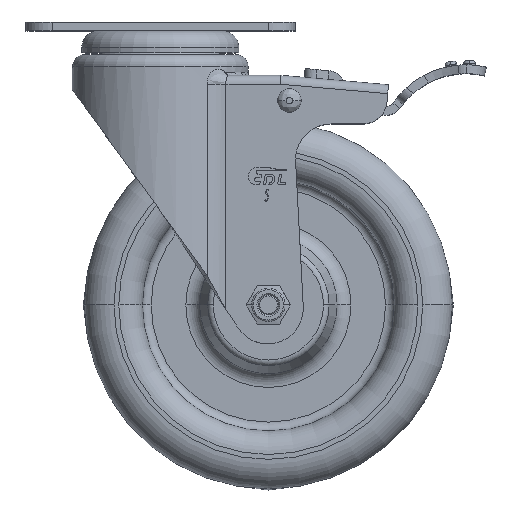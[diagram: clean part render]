
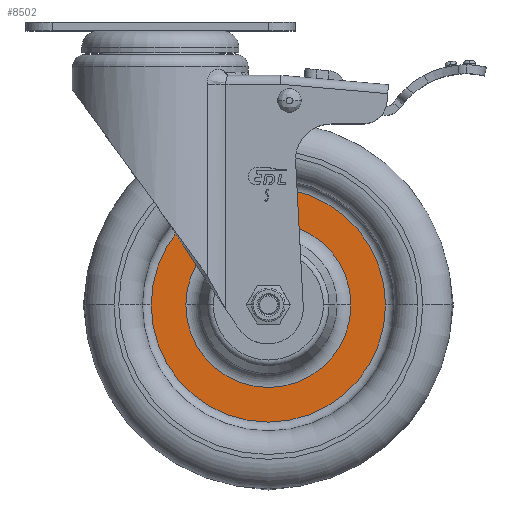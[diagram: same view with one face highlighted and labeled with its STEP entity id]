
A CAD part, top view. The second image highlights one B-rep face of the part: STEP entity #8502.
In plain terms, the highlighted planar face has unit normal (0, 0, 1) as drawn and (1, 0, 0) by its records, which use the part's own axes.
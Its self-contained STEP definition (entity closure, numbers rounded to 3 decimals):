
#7868=CARTESIAN_POINT('',(6.,0.,0.));
#7869=DIRECTION('',(-1.,0.,0.));
#7870=DIRECTION('',(0.,1.,0.));
#7871=AXIS2_PLACEMENT_3D('',#7868,#7869,#7870);
#7873=CARTESIAN_POINT('',(6.,0.,0.));
#7874=DIRECTION('',(1.,0.,0.));
#7875=DIRECTION('',(0.,1.,0.));
#7876=AXIS2_PLACEMENT_3D('',#7873,#7874,#7875);
#7878=CARTESIAN_POINT('',(6.,0.,0.));
#7879=DIRECTION('',(1.,0.,0.));
#7880=DIRECTION('',(0.,1.,0.));
#7881=AXIS2_PLACEMENT_3D('',#7878,#7879,#7880);
#7883=CARTESIAN_POINT('',(6.,0.,0.));
#7884=DIRECTION('',(-1.,0.,0.));
#7885=DIRECTION('',(0.,1.,0.));
#7886=AXIS2_PLACEMENT_3D('',#7883,#7884,#7885);
#7985=CARTESIAN_POINT('',(6.,27.869,0.));
#7986=VERTEX_POINT('',#7985);
#7987=CARTESIAN_POINT('',(6.,39.546,0.));
#7989=VERTEX_POINT('',#7987);
#8009=CARTESIAN_POINT('',(6.,-27.869,0.));
#8010=VERTEX_POINT('',#8009);
#8011=CARTESIAN_POINT('',(6.,-39.546,0.));
#8013=VERTEX_POINT('',#8011);
#8487=CARTESIAN_POINT('',(6.,0.,0.));
#8488=DIRECTION('',(1.,0.,0.));
#8489=DIRECTION('',(0.,-1.,0.));
#8490=AXIS2_PLACEMENT_3D('',#8487,#8488,#8489);
#8491=PLANE('',#8490);
#8492=ORIENTED_EDGE('',*,*,#8469,.T.);
#8493=ORIENTED_EDGE('',*,*,#8480,.F.);
#8494=EDGE_LOOP('',(#8492,#8493));
#8495=FACE_OUTER_BOUND('',#8494,.F.);
#8497=ORIENTED_EDGE('',*,*,#8496,.T.);
#8499=ORIENTED_EDGE('',*,*,#8498,.F.);
#8500=EDGE_LOOP('',(#8497,#8499));
#8501=FACE_BOUND('',#8500,.F.);
#7872=CIRCLE('',#7871,39.546);
#7877=CIRCLE('',#7876,39.546);
#7882=CIRCLE('',#7881,27.869);
#7887=CIRCLE('',#7886,27.869);
#8469=EDGE_CURVE('',#7989,#8013,#7872,.T.);
#8480=EDGE_CURVE('',#7989,#8013,#7877,.T.);
#8496=EDGE_CURVE('',#7986,#8010,#7882,.T.);
#8498=EDGE_CURVE('',#7986,#8010,#7887,.T.);
#8502=ADVANCED_FACE('',(#8495,#8501),#8491,.T.);
